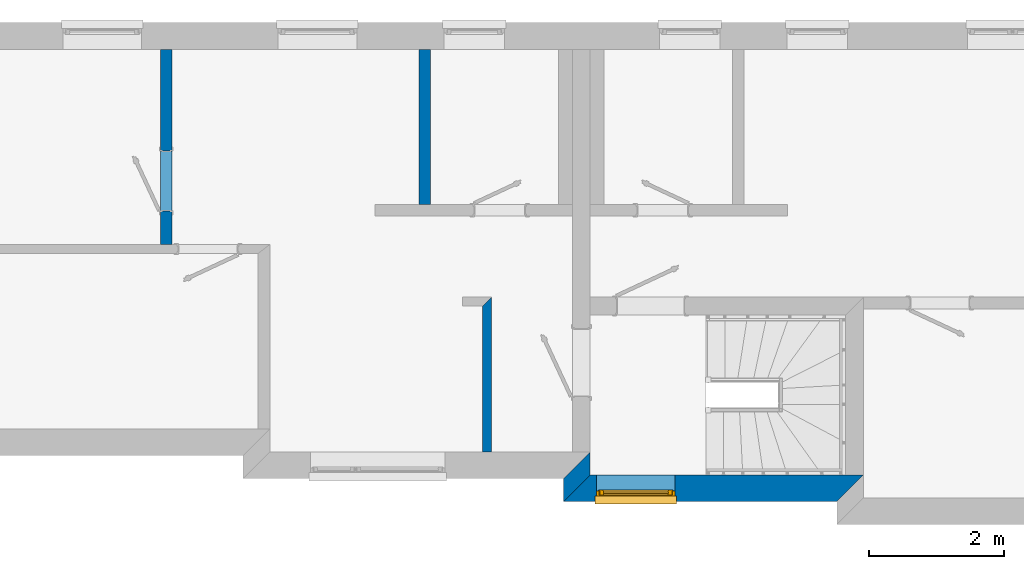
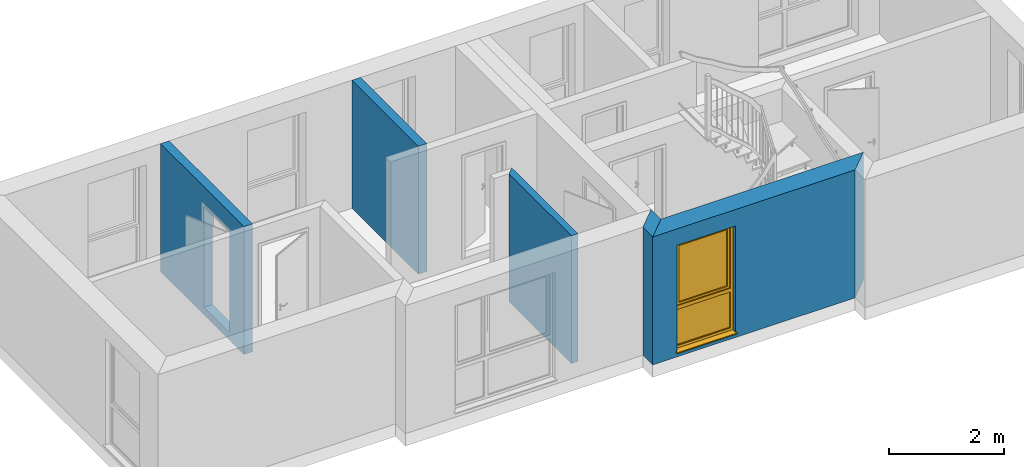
# One storey, part 4 of 16: 5 walls, 1 window, 2 openings.
"""IFC2X3 building model written with IfcOpenShell, lengths in millimetres."""

import ifcopenshell
import ifcopenshell.guid

model = None  # the IFC model being written
_history = None  # IfcOwnerHistory: only IFC2X3 demands one
_inside = {}  # id of a spatial element -> (the spatial element, [elements in it])
_under = {}  # id of a project, library or spatial element -> (it, [spatial elements below it])
_declared = {}  # id of a project -> (the project, [libraries it declares])
_typed = {}  # id of a type object -> (the type object, [elements of that type])
_made_of = {}  # id of a material, layer set ... -> (it, [elements and type objects made of it])


def new_model(schema):
    """Start an empty IFC model of exactly this schema.

    Asked for "IFC4X3", IfcOpenShell would pick the latest addendum, in which some entities
    have other attributes; the version numbers below select the first issue.
    IFC2X3 requires an IfcOwnerHistory on every rooted entity: one is made here for all.
    """
    global model, _history
    if schema == "IFC4X3":
        model = ifcopenshell.file(schema_version=(4, 3, 0, 0))
    else:
        model = ifcopenshell.file(schema=schema)
    _inside.clear()
    _under.clear()
    _declared.clear()
    _typed.clear()
    _made_of.clear()
    _history = None
    if model.schema == "IFC2X3":
        org = make("IfcOrganization", Name="unknown")
        user = make(
            "IfcPersonAndOrganization",
            ThePerson=make("IfcPerson", FamilyName="unknown"),
            TheOrganization=org,
        )
        app = make(
            "IfcApplication",
            ApplicationDeveloper=org,
            Version="unknown",
            ApplicationFullName="unknown",
            ApplicationIdentifier="unknown",
        )
        _history = make(
            "IfcOwnerHistory",
            OwningUser=user,
            OwningApplication=app,
            ChangeAction="ADDED",
            CreationDate=0,
        )
    return model


def make(cls, **values):
    """One entity of the class cls with the attributes given. An attribute that is None is left unset."""
    return model.create_entity(
        cls, **{name: value for name, value in values.items() if value is not None}
    )


def rooted(cls, **values):
    """An entity with a GlobalId (a new one), such as an element, a storey or a relation."""
    return make(cls, GlobalId=ifcopenshell.guid.new(), OwnerHistory=_history, **values)


def si_unit(unit_type, name, prefix=None):
    """IfcSIUnit, for example si_unit("LENGTHUNIT", "METRE", prefix="MILLI")."""
    return make("IfcSIUnit", UnitType=unit_type, Prefix=prefix, Name=name)


def assignment(units):
    """IfcUnitAssignment: the units of a project."""
    return None if units is None else make("IfcUnitAssignment", Units=units)


def point(xyz):
    """IfcCartesianPoint."""
    return None if xyz is None else make("IfcCartesianPoint", Coordinates=xyz)


def direction(xyz):
    """IfcDirection."""
    return None if xyz is None else make("IfcDirection", DirectionRatios=xyz)


def frame(location, z_axis=None, x_axis=None):
    """IfcAxis2Placement3D, a coordinate frame: its origin and axes. An axis left out is left unset."""
    return make(
        "IfcAxis2Placement3D",
        Location=point(location),
        Axis=direction(z_axis),
        RefDirection=direction(x_axis),
    )


def origin_with_axes():
    """The frame at (0, 0, 0) with the z axis (0, 0, 1) and the x axis (1, 0, 0) written out."""
    return frame((0.0, 0.0, 0.0), z_axis=(0.0, 0.0, 1.0), x_axis=(1.0, 0.0, 0.0))


def place(relative_to, where):
    """IfcLocalPlacement: puts the frame where relative to a parent placement (None: the world)."""
    return make(
        "IfcLocalPlacement", PlacementRelTo=relative_to, RelativePlacement=where
    )


def context(
    kind, dimensions, precision=None, world=None, true_north=None, identifier=None
):
    """IfcGeometricRepresentationContext, for example the 3D "Model" context."""
    return make(
        "IfcGeometricRepresentationContext",
        ContextIdentifier=identifier,
        ContextType=kind,
        CoordinateSpaceDimension=dimensions,
        Precision=precision,
        WorldCoordinateSystem=world,
        TrueNorth=true_north,
    )


def project(units=None, contexts=None):
    """IfcProject with its units and contexts."""
    return rooted(
        "IfcProject",
        Name="project",
        RepresentationContexts=contexts,
        UnitsInContext=assignment(units),
    )


def spatial(cls, under=None, at=None, **own):
    """A site, building, storey or space (cls), placed at a placement, below another one or the project."""
    s = rooted(cls, ObjectPlacement=at, **own)
    if under is not None:
        _under.setdefault(under.id(), (under, []))[1].append(s)
    return s


def faces_of(points, faces, orient=None, outer=None):
    """IfcFace entities. A face is a list of loops; a loop is a list of indices into points, from 0.

    orient and outer hold one flag for each loop. By default every Orientation is true, the
    first loop of a face is its IfcFaceOuterBound and the others are IfcFaceBound.
    """
    made = []
    for i, loops in enumerate(faces):
        bounds = []
        for j, loop in enumerate(loops):
            is_outer = j == 0 if outer is None else outer[i][j]
            bounds.append(
                make(
                    "IfcFaceOuterBound" if is_outer else "IfcFaceBound",
                    Bound=make("IfcPolyLoop", Polygon=[points[k] for k in loop]),
                    Orientation=True if orient is None else orient[i][j],
                )
            )
        made.append(make("IfcFace", Bounds=bounds))
    return made


def faceted_brep(points, faces, orient=None, outer=None, voids=None):
    """IfcFacetedBrep: a solid bounded by flat faces; with voids (closed shells), ...WithVoids."""
    shared = [point(p) for p in points]
    hull = make("IfcClosedShell", CfsFaces=faces_of(shared, faces, orient, outer))
    if voids is None:
        return make("IfcFacetedBrep", Outer=hull)
    return make(
        "IfcFacetedBrepWithVoids",
        Outer=hull,
        Voids=[
            make(cls, CfsFaces=faces_of(shared, fs, o, b)) for cls, fs, o, b in voids
        ],
    )


def shape(context_of_items, identifier, shape_type, items):
    """IfcShapeRepresentation: the items that make up one representation, for example the "Body"."""
    return make(
        "IfcShapeRepresentation",
        ContextOfItems=context_of_items,
        RepresentationIdentifier=identifier,
        RepresentationType=shape_type,
        Items=items,
    )


def material(Name=None, Category=None):
    """IfcMaterial."""
    return make("IfcMaterial", Name=Name, Category=Category)


def layer(
    of_material, thickness, ventilated=None, Name=None, Category=None, Priority=None
):
    """IfcMaterialLayer: one layer of a wall or slab, of a material (None: an air gap)."""
    return make(
        "IfcMaterialLayer",
        Material=of_material,
        LayerThickness=thickness,
        IsVentilated=ventilated,
        Name=Name,
        Category=Category,
        Priority=Priority,
    )


def layer_set(layers, Name=None):
    """IfcMaterialLayerSet."""
    return make("IfcMaterialLayerSet", MaterialLayers=layers, LayerSetName=Name)


def layer_usage(for_layer_set, set_direction, sense, offset, extent=None):
    """IfcMaterialLayerSetUsage: how a layer set lies in its element."""
    return make(
        "IfcMaterialLayerSetUsage",
        ForLayerSet=for_layer_set,
        LayerSetDirection=set_direction,
        DirectionSense=sense,
        OffsetFromReferenceLine=offset,
        ReferenceExtent=extent,
    )


def made_of(thing, what):
    """Note that an element or type object is made of a material, layer set ...; save() writes the relation."""
    if what is not None:
        _made_of.setdefault(what.id(), (what, []))[1].append(thing)
    return thing


def type_object(cls, material=None, **own):
    """A type object (cls), such as IfcWallType, which elements share."""
    return made_of(rooted(cls, **own), material)


def element(
    cls,
    number,
    at=None,
    inside=None,
    cuts=None,
    type_object=None,
    material=None,
    context=None,
    identifier="Body",
    shape_type=None,
    held_by="IfcProductDefinitionShape",
    body=None,
    shapes=None,
    **own,
):
    """One element of the class cls, such as IfcWall. Its Tag is "e" and its number.

    at: its placement. inside: the storey or other place that contains it. cuts: it is an
    opening in that element (IfcRelVoidsElement). A single representation is given by context,
    identifier, shape_type and body (its items); several are given by shapes. held_by: the class
    of the entity that holds the representations. save() writes the other relations.
    """
    e = rooted(cls, Tag="e%d" % number, ObjectPlacement=at, **own)
    if body is not None:
        shapes = [shape(context, identifier, shape_type, body)]
    if shapes is not None:
        e.Representation = make(held_by, Representations=shapes)
    if inside is not None:
        _inside.setdefault(inside.id(), (inside, []))[1].append(e)
    if cuts is not None:
        rooted(
            "IfcRelVoidsElement", RelatingBuildingElement=cuts, RelatedOpeningElement=e
        )
    if type_object is not None:
        _typed.setdefault(type_object.id(), (type_object, []))[1].append(e)
    return made_of(e, material)


def fill(opening, filler):
    """IfcRelFillsElement: the door or window that sits in an opening."""
    return rooted(
        "IfcRelFillsElement",
        RelatingOpeningElement=opening,
        RelatedBuildingElement=filler,
    )


def aggregate(whole, parts):
    """IfcRelAggregates: a whole, such as a stair, and the parts it consists of."""
    return rooted("IfcRelAggregates", RelatingObject=whole, RelatedObjects=parts)


def save(model, path):
    """Write the relations noted so far, then the file.

    IfcRelAggregates (storeys below a building ...), IfcRelContainedInSpatialStructure (elements
    in a storey), IfcRelDefinesByType, IfcRelAssociatesMaterial and IfcRelDeclares: one each for
    every whole, place, type object, material and project.
    """
    for whole, parts in _under.values():
        aggregate(whole, parts)
    for where, things in _inside.values():
        rooted(
            "IfcRelContainedInSpatialStructure",
            RelatedElements=things,
            RelatingStructure=where,
        )
    for kind, things in _typed.values():
        rooted("IfcRelDefinesByType", RelatedObjects=things, RelatingType=kind)
    for what, things in _made_of.values():
        rooted("IfcRelAssociatesMaterial", RelatedObjects=things, RelatingMaterial=what)
    for by, libraries in _declared.values():
        rooted("IfcRelDeclares", RelatingContext=by, RelatedDefinitions=libraries)
    model.write(path)


model = new_model("IFC2X3")

# Units and contexts
model_context = context("Model", 3, world=origin_with_axes())
ifc_project = project(units=[si_unit("LENGTHUNIT", "METRE", prefix="MILLI")], contexts=[model_context])

# Site, building, storey
site_placement = place(None, origin_with_axes())
site = spatial("IfcSite", under=ifc_project, at=site_placement, Name="Site", CompositionType="ELEMENT")
building_placement = place(site_placement, origin_with_axes())
building = spatial("IfcBuilding", under=site, at=building_placement, Name="?", CompositionType="ELEMENT")
storey_placement = place(building_placement, frame((0.0, 0.0, 2969.0), z_axis=(0.0, 0.0, 1.0), x_axis=(1.0, 0.0, 0.0)))
storey = spatial("IfcBuildingStorey", under=building, at=storey_placement, Name="Obergeschoß 1", CompositionType="ELEMENT", Elevation=2969.0)

# Wall, opening, window
ifc_material_1 = material(Name="Material_AW")
ifc_layer_1 = layer(ifc_material_1, 395.0, ventilated=False)
ifc_layer_set_1 = layer_set([ifc_layer_1], Name="MaterialLayerSet_AW")
ifc_layer_usage_1 = layer_usage(ifc_layer_set_1, "AXIS2", "NEGATIVE", 197.5)
wall_1_placement = place(storey_placement, frame((13747.5, -6900.5, 0.0), z_axis=(0.0, 0.0, 1.0), x_axis=(-1.0, 0.0, 0.0)))
wall_1 = element("IfcWall", 1, at=wall_1_placement, inside=storey, material=ifc_layer_usage_1, Name="AW-15", context=model_context, shape_type="Brep", body=[
    faceted_brep([(3852.50007906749, -197.5, 0.0), (3852.50007906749, -197.5, 2707.0), (-197.5, -197.5, 2707.0), (-197.5, -197.5, 0.0), (4247.50007906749, 197.5, 0.0), (4247.50007906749, 197.5, 2707.0), (3852.50007906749, -197.5, 2707.0), (3852.50007906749, -197.5, 0.0), (197.5, 197.5, 0.0), (197.5, 197.5, 2707.0), (4247.50007906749, 197.5, 2707.0), (4247.50007906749, 197.5, 0.0), (-197.5, -197.5, 0.0), (-197.5, -197.5, 2707.0), (197.5, 197.5, 2707.0), (197.5, 197.5, 0.0), (-197.5, -197.5, 0.0), (197.5, 197.5, 0.0), (4247.50007906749, 197.5, 0.0), (3852.50007906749, -197.5, 0.0), (197.5, 197.5, 2707.0), (-197.5, -197.5, 2707.0), (3852.50007906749, -197.5, 2707.0), (4247.50007906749, 197.5, 2707.0)], [[[0, 1, 2, 3]], [[4, 5, 6, 7]], [[8, 9, 10, 11]], [[12, 13, 14, 15]], [[16, 17, 18, 19]], [[20, 21, 22, 23]]]),
])
opening_1_placement = place(wall_1_placement, frame((2592.5, 0.0, 116.0), z_axis=(0.0, 0.0, 1.0), x_axis=(1.0, 0.0, 0.0)))
opening_1 = element("IfcOpeningElement", 2, at=opening_1_placement, cuts=wall_1, Name="AW-15|FE17", context=model_context, shape_type="Brep", body=[
    faceted_brep([(0.0, 207.5, 0.0), (0.0, 207.5, 2244.0), (1170.0, 207.5, 2244.0), (1170.0, 207.5, 0.0), (0.0, -207.5, 0.0), (0.0, -207.5, 2244.0), (0.0, 207.5, 2244.0), (0.0, 207.5, 0.0), (1170.0, -207.5, 0.0), (0.0, -207.5, 0.0), (0.0, 207.5, 0.0), (1170.0, 207.5, 0.0), (1170.0, -207.5, 2244.0), (1170.0, -207.5, 0.0), (1170.0, 207.5, 0.0), (1170.0, 207.5, 2244.0), (0.0, -207.5, 2244.0), (1170.0, -207.5, 2244.0), (1170.0, 207.5, 2244.0), (0.0, 207.5, 2244.0), (0.0, -207.5, 0.0), (1170.0, -207.5, 0.0), (1170.0, -207.5, 2244.0), (0.0, -207.5, 2244.0)], [[[0, 1, 2, 3]], [[4, 5, 6, 7]], [[8, 9, 10, 11]], [[12, 13, 14, 15]], [[16, 17, 18, 19]], [[20, 21, 22, 23]]]),
])
window_style = type_object("IfcWindowStyle", Name="FE17", ConstructionType="NOTDEFINED", OperationType="DOUBLE_PANEL_HORIZONTAL", ParameterTakesPrecedence=True, Sizeable=False)
window_placement = place(opening_1_placement, frame((1170.0, 77.5, 0.0), z_axis=(0.0, 0.0, 1.0), x_axis=(-1.0, 0.0, 0.0)))
window = element("IfcWindow", 3, at=window_placement, inside=storey, type_object=window_style, Name="FE17", OverallHeight=2244.0, OverallWidth=1170.0, context=model_context, shape_type="Brep", body=[
    faceted_brep([(0.0, -36.0, 0.0), (1170.0, -36.0, 0.0), (1155.0, -36.0, 15.0), (15.0, -36.0, 15.0), (15.0, 36.0, 15.0), (1155.0, 36.0, 15.0), (1170.0, 36.0, 0.0), (0.0, 36.0, 0.0), (0.0, 36.0, 0.0), (1170.0, 36.0, 0.0), (1170.0, -36.0, 0.0), (0.0, -36.0, 0.0), (1170.0, -36.0, 0.0), (1170.0, -36.0, 2244.0), (1155.0, -36.0, 2229.0), (1155.0, -36.0, 15.0), (1155.0, 36.0, 14.999755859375), (1155.0, 36.0, 2229.0), (1170.0, 36.0, 2244.0), (1170.0, 36.0, -0.000244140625), (1170.0, 36.0, 0.0), (1170.0, 36.0, 2244.0), (1170.0, -36.0, 2244.0), (1170.0, -36.0, 0.0), (1170.0, -36.0, 2244.0), (0.0, -36.0, 2244.0), (15.0, -36.0, 2229.0), (1155.0, -36.0, 2229.0), (1155.0, 36.0, 2229.0), (15.0, 36.0, 2229.0), (0.0, 36.0, 2244.0), (1170.0, 36.0, 2244.0), (1170.0, 36.0, 2244.0), (0.0, 36.0, 2244.0), (0.0, -36.0, 2244.0), (1170.0, -36.0, 2244.0), (0.0, -36.0, 2244.0), (0.0, -36.0, 0.0), (15.0, -36.0, 15.0), (15.0, -36.0, 2229.0), (15.0, 36.0, 2229.0), (15.0, 36.0, 15.0), (0.0, 36.0, 0.0), (0.0, 36.0, 2244.0), (0.0, 36.0, 2244.0), (0.0, 36.0, 0.0), (0.0, -36.0, 0.0), (0.0, -36.0, 2244.0), (1155.0, 36.0, 855.0), (1117.0, 36.0, 817.0), (53.0, 36.0, 817.0), (15.0, 36.0, 855.0), (43.0, 36.0, 883.0), (1127.0, 36.0, 883.0), (1127.0, 36.0, 883.0), (43.0, 36.0, 883.0), (43.0, -21.0, 883.0), (1127.0, -21.0, 883.0), (1127.0, -21.0, 883.0), (43.0, -21.0, 883.0), (60.0, -21.0, 900.0), (1110.0, -21.0, 900.0), (1109.9990234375, -21.0, 900.0), (59.9990234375, -21.0, 900.0), (59.9990234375, -25.0, 900.0), (1109.9990234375, -25.0, 900.0), (1109.9990234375, -25.0, 900.0), (59.999023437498, -25.0, 900.0), (52.999023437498, -36.0014647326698, 892.999023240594), (1116.9990234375, -36.0014647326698, 892.999023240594), (1117.0, -36.0, 893.0), (53.0, -36.0, 893.0), (15.0, -36.0, 855.0), (53.0, -36.0, 817.0), (1117.0, -36.0, 817.0), (1155.0, -36.0, 855.0), (53.0, 36.0, 817.0), (1117.0, 36.0, 817.0), (1110.0, 24.9985354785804, 809.999267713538), (60.0, 24.9985354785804, 809.999267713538), (59.9990234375, 25.0, 810.0), (1109.9990234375, 25.0, 810.0), (1109.9990234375, 12.0, 810.0), (59.9990234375, 12.0, 810.0), (59.9990234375, -12.0, 810.0), (1109.9990234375, -12.0, 810.0), (1109.9990234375, -25.0, 810.0), (59.9990234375, -25.0, 810.0), (59.9990234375, 12.0, 810.0), (1109.9990234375, 12.0, 810.0), (1126.9990234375, 12.0, 827.0), (42.9990234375, 12.0, 827.0), (43.0, 12.0, 827.0), (1127.0, 12.0, 827.0), (1127.0, -12.0, 827.0), (43.0, -12.0, 827.0), (43.0, -12.0, 827.0), (1127.0, -12.0, 827.0), (1110.0, -12.0, 810.0), (60.0, -12.0, 810.0), (59.9990234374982, -25.0, 810.0), (1109.9990234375, -25.0, 810.0), (1116.9990234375, -36.0014647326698, 817.000976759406), (52.9990234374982, -36.0014647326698, 817.000976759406), (1155.0, 36.0, 2229.0), (1155.0, 36.0, 855.0), (1127.0, 36.0, 883.0), (1127.0, 36.0, 2201.0), (1127.0, 36.0, 2201.0), (1127.0, 36.0, 883.0), (1127.0, -21.0, 883.0), (1127.0, -21.0, 2201.0), (1127.0, -21.0, 2201.0), (1127.0, -21.0, 883.0), (1110.0, -21.0, 900.0), (1110.0, -21.0, 2184.0), (1110.0, -21.0, 2184.0), (1110.0, -21.0, 900.0), (1110.0, -25.0, 900.0), (1110.0, -25.0, 2184.0), (1110.0, -25.0, 2184.0), (1110.0, -25.0, 900.0), (1117.00097675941, -36.0014647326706, 893.0), (1117.00097675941, -36.0014647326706, 2191.0), (1117.0, -36.0, 2191.0), (1117.0, -36.0, 893.0), (1155.0, -36.0, 855.0), (1155.0, -36.0, 2229.0), (15.0, 36.0, 2229.0), (1155.0, 36.0, 2229.0), (1127.0, 36.0, 2201.0), (43.0, 36.0, 2201.0), (43.0, 36.0, 2201.0), (1127.0, 36.0, 2201.0), (1127.0, -21.0, 2201.0), (43.0, -21.0, 2201.0), (43.0, -21.0, 2201.0), (1127.0, -21.0, 2201.0), (1110.0, -21.0, 2184.0), (60.0, -21.0, 2184.0), (59.9990234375, -21.0, 2184.0), (1109.9990234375, -21.0, 2184.0), (1109.9990234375, -25.0, 2184.0), (59.9990234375, -25.0, 2184.0), (59.9990234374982, -24.9999999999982, 2184.0), (1109.9990234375, -24.9999999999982, 2184.0), (1116.9990234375, -36.0014647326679, 2191.00097675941), (52.9990234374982, -36.0014647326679, 2191.00097675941), (53.0, -36.0, 2191.0), (1117.0, -36.0, 2191.0), (1155.0, -36.0, 2229.0), (15.0, -36.0, 2229.0), (15.0, 36.0, 855.0), (15.0, 36.0, 2229.0), (43.0, 36.0, 2201.0), (43.0, 36.0, 883.0), (43.0, 36.0, 883.00048828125), (43.0, 36.0, 2201.00048828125), (43.0, -21.0, 2201.00048828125), (43.0, -21.0, 883.00048828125), (43.0, -21.0, 883.00048828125), (43.0, -21.0, 2201.00048828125), (60.0, -21.0, 2184.00048828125), (60.0, -21.0, 900.00048828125), (60.0, -21.0, 900.0), (60.0, -21.0, 2184.0), (60.0, -25.0, 2184.0), (60.0, -25.0, 900.0), (60.0, -25.0, 900.0), (60.0, -25.0, 2184.0), (52.9990232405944, -36.0014647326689, 2191.0), (52.9990232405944, -36.0014647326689, 893.0), (53.0, -36.0, 893.0), (53.0, -36.0, 2191.0), (15.0, -36.0, 2229.0), (15.0, -36.0, 855.0), (1155.0, 36.0, 15.0), (15.0, 36.0, 15.0), (53.0, 36.0, 53.0), (1117.0, 36.0, 53.0), (1117.0, 36.0, 53.0), (53.0, 36.0, 53.0), (60.0, 24.9985354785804, 60.0007322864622), (1110.0, 24.9985354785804, 60.0007322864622), (1109.9990234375, 25.0, 60.0), (59.9990234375, 25.0, 60.0), (59.9990234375, 12.0, 60.0), (1109.9990234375, 12.0, 60.0), (1109.9990234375, -12.0, 60.0), (59.9990234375, -12.0, 60.0), (59.9990234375, -25.0, 60.0), (1109.9990234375, -25.0, 60.0), (1109.9990234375, 12.0, 60.0), (59.9990234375, 12.0, 60.0), (42.9990234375, 12.0, 43.0), (1126.9990234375, 12.0, 43.0), (1127.0, 12.0, 43.0), (43.0, 12.0, 43.0), (43.0, -12.0, 43.0), (1127.0, -12.0, 43.0), (1127.0, -12.0, 43.0), (43.0, -12.0, 43.0), (60.0, -12.0, 60.0), (1110.0, -12.0, 60.0), (1109.9990234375, -25.0, 60.0), (59.999023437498, -25.0, 60.0), (52.999023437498, -36.0014647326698, 52.9990232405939), (1116.9990234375, -36.0014647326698, 52.9990232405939), (1117.0, -36.0, 53.0), (53.0, -36.0, 53.0), (15.0, -36.0, 15.0), (1155.0, -36.0, 15.0), (1155.0, 36.0, 855.0), (1155.0, 36.0, 15.0), (1117.0, 36.0, 53.0), (1117.0, 36.0, 817.0), (1117.0, 36.0, 817.0), (1117.0, 36.0, 53.0), (1109.9999999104, 24.9980470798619, 60.0), (1109.9999999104, 24.9980470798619, 810.0), (1110.0, 25.0, 810.0), (1110.0, 25.0, 60.0), (1110.0, 12.0, 60.0), (1110.0, 12.0, 810.0), (1110.0, -12.0, 810.0), (1110.0, -12.0, 59.9999999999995), (1110.00097656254, -25.000000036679, 59.9999999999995), (1110.00097656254, -25.000000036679, 810.0), (1110.0, 12.0, 810.0), (1110.0, 12.0, 60.0), (1127.0, 12.0, 43.0), (1127.0, 12.0, 827.0), (1127.0, 12.0, 826.99951171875), (1127.0, 12.0, 42.99951171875), (1127.0, -12.0, 42.99951171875), (1127.0, -12.0, 826.99951171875), (1127.0, -12.0, 826.99951171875), (1127.0, -12.0, 42.99951171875), (1110.0, -12.0, 59.99951171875), (1110.0, -12.0, 809.99951171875), (1110.0, -25.0, 810.0), (1110.0, -25.0, 60.0000000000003), (1117.00097675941, -36.0014647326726, 53.0000000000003), (1117.00097675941, -36.0014647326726, 817.0), (1117.0, -36.0, 817.0), (1117.0, -36.0, 53.0), (1155.0, -36.0, 15.0), (1155.0, -36.0, 855.0), (15.0, 36.0, 15.0), (15.0, 36.0, 855.0), (53.0, 36.0, 817.0), (53.0, 36.0, 53.0), (53.0, 36.0, 53.0), (53.0, 36.0, 817.0), (60.0009767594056, 24.9985352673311, 810.0), (60.0009767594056, 24.9985352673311, 60.0), (60.0, 25.0, 60.0), (60.0, 25.0, 810.0), (60.0, 12.0, 810.0), (60.0, 12.0, 60.0), (59.9990234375, -12.0, 60.0), (59.9990234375, -12.0, 810.0), (59.9990234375, -25.0, 810.0), (59.9990234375, -25.0, 60.0), (60.0, 12.0, 60.0), (60.0, 12.0, 810.0), (43.0, 12.0, 827.0), (43.0, 12.0, 43.0), (43.0, 12.0, 43.00048828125), (43.0, 12.0, 827.00048828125), (43.0, -12.0, 827.00048828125), (43.0, -12.0, 43.00048828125), (43.0, -12.0, 43.00048828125), (43.0, -12.0, 827.00048828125), (60.0, -12.0, 810.00048828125), (60.0, -12.0, 60.00048828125), (60.0, -25.0, 60.0), (60.0, -25.0, 810.0), (52.9990232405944, -36.0014647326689, 817.0), (52.9990232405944, -36.0014647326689, 53.0), (53.0, -36.0, 53.0), (53.0, -36.0, 817.0), (15.0, -36.0, 855.0), (15.0, -36.0, 15.0), (1137.0, 52.0, 873.0), (33.0, 52.0, 873.0), (96.0, 52.0, 936.0), (1074.0, 52.0, 936.0), (1074.0, 52.0, 936.0), (96.0, 52.0, 936.0), (110.0, 19.9985360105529, 950.00048798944), (1060.0, 19.9985360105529, 950.00048798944), (1060.0, 20.0, 950.0), (110.0, 20.0, 950.0), (103.0, 20.0, 943.0), (1067.0, 20.0, 943.0), (1067.0, 20.0, 943.0), (103.0, 20.0, 943.0), (103.0, -4.0, 943.0), (1067.0, -4.0, 943.0), (1067.0, -4.0, 943.0), (103.0, -4.0, 943.0), (110.0, -4.0, 950.0), (1060.0, -4.0, 950.0), (1060.0, -4.0, 950.0), (110.0, -4.0, 950.0), (102.0, -21.0014648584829, 941.999267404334), (1068.0, -21.0014648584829, 941.999267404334), (1067.9990234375, -21.0, 942.0), (101.9990234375, -21.0, 942.0), (50.9990234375, -21.0, 891.0), (1118.9990234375, -21.0, 891.0), (1118.9990234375, -21.0, 891.0), (50.9990234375, -21.0, 891.0), (50.9990234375, 36.0, 891.0), (1118.9990234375, 36.0, 891.0), (1118.9990234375, 36.0, 891.0), (50.9990234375, 36.0, 891.0), (32.9990234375, 36.0, 873.0), (1136.9990234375, 36.0, 873.0), (1137.0, 36.0, 873.0), (33.0, 36.0, 873.0), (33.0, 52.0, 873.0), (1137.0, 52.0, 873.0), (1137.0, 52.0, 2211.00048828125), (1137.0, 52.0, 873.00048828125), (1074.0, 52.0, 936.00048828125), (1074.0, 52.0, 2148.00048828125), (1074.0, 51.9999999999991, 2148.0), (1074.0, 51.9999999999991, 936.0), (1059.99902341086, 19.99853575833, 950.0), (1059.99902341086, 19.99853575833, 2134.0), (1060.0, 20.0, 2134.0), (1060.0, 20.0, 950.0), (1067.0, 20.0, 943.0), (1067.0, 20.0, 2141.0), (1067.0, 20.0, 2141.0), (1067.0, 20.0, 943.0), (1067.0, -4.0, 943.0), (1067.0, -4.0, 2141.0), (1067.0, -4.0, 2141.0), (1067.0, -4.0, 943.0), (1060.0, -4.0, 950.0), (1060.0, -4.0, 2134.0), (1060.0, -4.0, 2134.0), (1060.0, -4.0, 950.0), (1068.00097677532, -21.0014648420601, 942.0), (1068.00097677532, -21.0014648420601, 2142.0), (1068.0, -21.0, 2142.0), (1068.0, -21.0, 942.0), (1119.0, -21.0, 891.0), (1119.0, -21.0, 2193.0), (1119.0, -21.0, 2193.0), (1119.0, -21.0, 891.0), (1119.0, 36.0, 891.0), (1119.0, 36.0, 2193.0), (1119.0, 36.0, 2193.0), (1119.0, 36.0, 891.0), (1137.0, 36.0, 873.0), (1137.0, 36.0, 2211.0), (1137.0, 36.0, 2211.00048828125), (1137.0, 36.0, 873.00048828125), (1137.0, 52.0, 873.00048828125), (1137.0, 52.0, 2211.00048828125), (33.0, 52.0, 2211.0), (1137.0, 52.0, 2211.0), (1074.0, 52.0, 2148.0), (96.0, 52.0, 2148.0), (96.0, 52.0000000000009, 2148.0), (1074.0, 52.0000000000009, 2148.0), (1060.0, 19.9985360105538, 2133.99951201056), (110.0, 19.9985360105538, 2133.99951201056), (110.0, 20.0, 2134.0), (1060.0, 20.0, 2134.0), (1067.0, 20.0, 2141.0), (103.0, 20.0, 2141.0), (102.9990234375, 20.0, 2141.0), (1066.9990234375, 20.0, 2141.0), (1066.9990234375, -4.0, 2141.0), (102.9990234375, -4.0, 2141.0), (102.9990234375, -4.0, 2141.0), (1066.9990234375, -4.0, 2141.0), (1059.9990234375, -4.0, 2134.0), (109.9990234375, -4.0, 2134.0), (110.0, -4.0, 2134.0), (1060.0, -4.0, 2134.0), (1068.0, -21.0014648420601, 2142.00097677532), (102.0, -21.0014648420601, 2142.00097677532), (101.9990234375, -21.0, 2142.0), (1067.9990234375, -21.0, 2142.0), (1118.9990234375, -21.0, 2193.0), (50.9990234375, -21.0, 2193.0), (50.9990234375, -21.0, 2193.0), (1118.9990234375, -21.0, 2193.0), (1118.9990234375, 36.0, 2193.0), (50.9990234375, 36.0, 2193.0), (50.9990234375, 36.0, 2193.0), (1118.9990234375, 36.0, 2193.0), (1136.9990234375, 36.0, 2211.0), (32.9990234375, 36.0, 2211.0), (33.0, 36.0, 2211.0), (1137.0, 36.0, 2211.0), (1137.0, 52.0, 2211.0), (33.0, 52.0, 2211.0), (33.0, 52.0, 873.00048828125), (33.0, 52.0, 2211.00048828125), (96.0, 52.0, 2148.00048828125), (96.0, 52.0, 936.00048828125), (96.0, 52.0, 935.999755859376), (96.0, 52.0, 2148.0), (110.000976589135, 19.99853575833, 2134.0), (110.000976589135, 19.99853575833, 949.999755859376), (110.0, 20.0, 950.00048828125), (110.0, 20.0, 2134.00048828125), (103.0, 20.0, 2141.00048828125), (103.0, 20.0, 943.00048828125), (103.0, 20.0, 943.00048828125), (103.0, 20.0, 2141.00048828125), (103.0, -4.0, 2141.00048828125), (103.0, -4.0, 943.00048828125), (103.0, -4.0, 943.00048828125), (103.0, -4.0, 2141.00048828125), (110.0, -4.0, 2134.00048828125), (110.0, -4.0, 950.00048828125), (110.0, -4.0, 950.00048828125), (110.0, -4.0, 2134.00048828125), (101.999023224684, -21.0014648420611, 2142.00048828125), (101.999023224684, -21.0014648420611, 942.00048828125), (102.0, -21.0, 942.0), (102.0, -21.0, 2142.0), (51.0, -21.0, 2193.0), (51.0, -21.0, 891.0), (51.0, -21.0, 891.00048828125), (51.0, -21.0, 2193.00048828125), (51.0, 36.0, 2193.00048828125), (51.0, 36.0, 891.00048828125), (51.0, 36.0, 891.00048828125), (51.0, 36.0, 2193.00048828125), (33.0, 36.0, 2211.00048828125), (33.0, 36.0, 873.00048828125), (33.0, 36.0, 873.00048828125), (33.0, 36.0, 2211.00048828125), (33.0, 52.0, 2211.00048828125), (33.0, 52.0, 873.00048828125), (110.0, 20.0, 950.0), (110.0, 20.0, 2134.0), (1060.0, 20.0, 2134.0), (1060.0, 20.0, 950.0), (110.0, -4.0, 950.0), (1060.0, -4.0, 950.0), (1060.0, -4.0, 2134.0), (110.0, -4.0, 2134.0), (60.0, 12.0, 60.0), (60.0, 12.0, 810.0), (1110.0, 12.0, 810.0), (1110.0, 12.0, 60.0), (60.0, -12.0, 60.0), (1110.0, -12.0, 60.0), (1110.0, -12.0, 810.0), (60.0, -12.0, 810.0), (-20.0, -36.0, 0.5), (-20.0, -160.0, 0.5), (1190.0, -160.0, 0.5), (1190.0, -36.0, 0.5), (-20.0, -36.0, -19.5), (-20.0, -36.0, 0.5), (1190.0, -36.0, 0.5), (1190.0, -36.0, -19.5), (-20.0, -160.0, -19.5), (-20.0, -36.0, -19.5), (1190.0, -36.0, -19.5), (1190.0, -160.0, -19.5), (-20.0, -160.0, 0.5), (-20.0, -160.0, -19.5), (1190.0, -160.0, -19.5), (1190.0, -160.0, 0.5), (-20.0, -160.0, -19.5), (-20.0, -160.0, 0.5), (-20.0, -36.0, 0.5), (-20.0, -36.0, -19.5), (1190.0, -160.0, 0.5), (1190.0, -160.0, -19.5), (1190.0, -36.0, -19.5), (1190.0, -36.0, 0.5)], [[[0, 1, 2, 3]], [[4, 5, 6, 7]], [[8, 9, 10, 11]], [[12, 13, 14, 15]], [[16, 17, 18, 19]], [[20, 21, 22, 23]], [[24, 25, 26, 27]], [[28, 29, 30, 31]], [[32, 33, 34, 35]], [[36, 37, 38, 39]], [[40, 41, 42, 43]], [[44, 45, 46, 47]], [[48, 49, 50, 51, 52, 53]], [[54, 55, 56, 57]], [[58, 59, 60, 61]], [[62, 63, 64, 65]], [[66, 67, 68, 69]], [[70, 71, 72, 73, 74, 75]], [[76, 77, 78, 79]], [[80, 81, 82, 83]], [[84, 85, 86, 87]], [[88, 89, 90, 91]], [[92, 93, 94, 95]], [[96, 97, 98, 99]], [[100, 101, 102, 103]], [[104, 105, 106, 107]], [[108, 109, 110, 111]], [[112, 113, 114, 115]], [[116, 117, 118, 119]], [[120, 121, 122, 123]], [[124, 125, 126, 127]], [[128, 129, 130, 131]], [[132, 133, 134, 135]], [[136, 137, 138, 139]], [[140, 141, 142, 143]], [[144, 145, 146, 147]], [[148, 149, 150, 151]], [[152, 153, 154, 155]], [[156, 157, 158, 159]], [[160, 161, 162, 163]], [[164, 165, 166, 167]], [[168, 169, 170, 171]], [[172, 173, 174, 175]], [[176, 177, 178, 179]], [[180, 181, 182, 183]], [[184, 185, 186, 187]], [[188, 189, 190, 191]], [[192, 193, 194, 195]], [[196, 197, 198, 199]], [[200, 201, 202, 203]], [[204, 205, 206, 207]], [[208, 209, 210, 211]], [[212, 213, 214, 215]], [[216, 217, 218, 219]], [[220, 221, 222, 223]], [[224, 225, 226, 227]], [[228, 229, 230, 231]], [[232, 233, 234, 235]], [[236, 237, 238, 239]], [[240, 241, 242, 243]], [[244, 245, 246, 247]], [[248, 249, 250, 251]], [[252, 253, 254, 255]], [[256, 257, 258, 259]], [[260, 261, 262, 263]], [[264, 265, 266, 267]], [[268, 269, 270, 271]], [[272, 273, 274, 275]], [[276, 277, 278, 279]], [[280, 281, 282, 283]], [[284, 285, 286, 287]], [[288, 289, 290, 291]], [[292, 293, 294, 295]], [[296, 297, 298, 299]], [[300, 301, 302, 303]], [[304, 305, 306, 307]], [[308, 309, 310, 311]], [[312, 313, 314, 315]], [[316, 317, 318, 319]], [[320, 321, 322, 323]], [[324, 325, 326, 327]], [[328, 329, 330, 331]], [[332, 333, 334, 335]], [[336, 337, 338, 339]], [[340, 341, 342, 343]], [[344, 345, 346, 347]], [[348, 349, 350, 351]], [[352, 353, 354, 355]], [[356, 357, 358, 359]], [[360, 361, 362, 363]], [[364, 365, 366, 367]], [[368, 369, 370, 371]], [[372, 373, 374, 375]], [[376, 377, 378, 379]], [[380, 381, 382, 383]], [[384, 385, 386, 387]], [[388, 389, 390, 391]], [[392, 393, 394, 395]], [[396, 397, 398, 399]], [[400, 401, 402, 403]], [[404, 405, 406, 407]], [[408, 409, 410, 411]], [[412, 413, 414, 415]], [[416, 417, 418, 419]], [[420, 421, 422, 423]], [[424, 425, 426, 427]], [[428, 429, 430, 431]], [[432, 433, 434, 435]], [[436, 437, 438, 439]], [[440, 441, 442, 443]], [[444, 445, 446, 447]], [[448, 449, 450, 451]], [[452, 453, 454, 455]], [[456, 457, 458, 459]], [[460, 461, 462, 463]], [[464, 465, 466, 467]], [[468, 469, 470, 471]], [[472, 473, 474, 475]], [[476, 477, 478, 479]], [[480, 481, 482, 483]]]),
])
fill(opening_1, window)

# Walls
wall_2_placement = place(storey_placement, frame((9697.5, -6900.5, 0.0), z_axis=(0.0, 0.0, 1.0), x_axis=(0.0, 1.0, 0.0)))
element("IfcWall", 4, at=wall_2_placement, inside=storey, material=ifc_layer_usage_1, Name="AW-16", context=model_context, shape_type="Brep", body=[
    faceted_brep([(539.500007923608, -197.5, 0.0), (539.500007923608, -197.5, 2707.0), (197.5, -197.5, 2707.0), (197.5, -197.5, 0.0), (144.500007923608, 197.5, 0.0), (144.500007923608, 197.5, 2707.0), (539.500007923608, -197.5, 2707.0), (539.500007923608, -197.5, 0.0), (-197.5, 197.5, 0.0), (-197.5, 197.5, 2707.0), (144.500007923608, 197.5, 2707.0), (144.500007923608, 197.5, 0.0), (197.5, -197.5, 0.0), (197.5, -197.5, 2707.0), (-197.5, 197.5, 2707.0), (-197.5, 197.5, 0.0), (197.5, -197.5, 0.0), (-197.5, 197.5, 0.0), (144.500007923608, 197.5, 0.0), (539.500007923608, -197.5, 0.0), (-197.5, 197.5, 2707.0), (197.5, -197.5, 2707.0), (539.500007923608, -197.5, 2707.0), (144.500007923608, 197.5, 2707.0)], [[[0, 1, 2, 3]], [[4, 5, 6, 7]], [[8, 9, 10, 11]], [[12, 13, 14, 15]], [[16, 17, 18, 19]], [[20, 21, 22, 23]]]),
])
ifc_material_2 = material(Name="Material_IW")
ifc_layer_2 = layer(ifc_material_2, 172.0, ventilated=False)
ifc_layer_set_2 = layer_set([ifc_layer_2], Name="MaterialLayerSet_IW")
ifc_layer_usage_2 = layer_usage(ifc_layer_set_2, "AXIS2", "NEGATIVE", 86.0)
wall_3_placement = place(storey_placement, frame((7439.0, -395.0, 0.0), z_axis=(0.0, 0.0, 1.0), x_axis=(0.0, -1.0, 0.0)))
element("IfcWall", 5, at=wall_3_placement, inside=storey, material=ifc_layer_usage_2, Name="IW-31", context=model_context, shape_type="Brep", body=[
    faceted_brep([(2302.0, -86.0, 0.0), (2302.0, -86.0, 2707.0), (0.0, -86.0, 2707.0), (0.0, -86.0, 0.0), (2302.0, 86.0, 0.0), (2302.0, 86.0, 2707.0), (2302.0, -86.0, 2707.0), (2302.0, -86.0, 0.0), (0.0, 86.0, 0.0), (0.0, 86.0, 2707.0), (2302.0, 86.0, 2707.0), (2302.0, 86.0, 0.0), (0.0, -86.0, 0.0), (0.0, -86.0, 2707.0), (0.0, 86.0, 2707.0), (0.0, 86.0, 0.0), (0.0, -86.0, 0.0), (0.0, 86.0, 0.0), (2302.0, 86.0, 0.0), (2302.0, -86.0, 0.0), (0.0, -86.0, 2707.0), (2302.0, -86.0, 2707.0), (2302.0, 86.0, 2707.0), (0.0, 86.0, 2707.0)], [[[0, 1, 2, 3]], [[4, 5, 6, 7]], [[8, 9, 10, 11]], [[12, 13, 14, 15]], [[16, 17, 18, 19]], [[20, 21, 22, 23]]]),
])

# Wall, opening
wall_4_placement = place(storey_placement, frame((3611.0, -395.0, 0.0), z_axis=(0.0, 0.0, 1.0), x_axis=(0.0, -1.0, 0.0)))
wall_4 = element("IfcWall", 6, at=wall_4_placement, inside=storey, material=ifc_layer_usage_2, Name="IW-34", context=model_context, shape_type="Brep", body=[
    faceted_brep([(2893.0, -86.0, 0.0), (2893.0, -86.0, 2707.0), (0.0, -86.0, 2707.0), (0.0, -86.0, 0.0), (2893.0, 86.0, 0.0), (2893.0, 86.0, 2707.0), (2893.0, -86.0, 2707.0), (2893.0, -86.0, 0.0), (0.0, 86.0, 0.0), (0.0, 86.0, 2707.0), (2893.0, 86.0, 2707.0), (2893.0, 86.0, 0.0), (0.0, -86.0, 0.0), (0.0, -86.0, 2707.0), (0.0, 86.0, 2707.0), (0.0, 86.0, 0.0), (0.0, -86.0, 0.0), (0.0, 86.0, 0.0), (2893.0, 86.0, 0.0), (2893.0, -86.0, 0.0), (0.0, -86.0, 2707.0), (2893.0, -86.0, 2707.0), (2893.0, 86.0, 2707.0), (0.0, 86.0, 2707.0)], [[[0, 1, 2, 3]], [[4, 5, 6, 7]], [[8, 9, 10, 11]], [[12, 13, 14, 15]], [[16, 17, 18, 19]], [[20, 21, 22, 23]]]),
])
opening_2_placement = place(wall_4_placement, frame((1508.0, 0.0, 160.0), z_axis=(0.0, 0.0, 1.0), x_axis=(1.0, 0.0, 0.0)))
element("IfcOpeningElement", 7, at=opening_2_placement, cuts=wall_4, Name="IW-34|IT14", context=model_context, shape_type="Brep", body=[
    faceted_brep([(0.0, 96.0, 0.0), (0.0, 96.0, 2135.0), (885.0, 96.0, 2135.0), (885.0, 96.0, 0.0), (0.0, -96.0, 0.0), (0.0, -96.0, 2135.0), (0.0, 96.0, 2135.0), (0.0, 96.0, 0.0), (885.0, -96.0, 0.0), (0.0, -96.0, 0.0), (0.0, 96.0, 0.0), (885.0, 96.0, 0.0), (885.0, -96.0, 2135.0), (885.0, -96.0, 0.0), (885.0, 96.0, 0.0), (885.0, 96.0, 2135.0), (0.0, -96.0, 2135.0), (885.0, -96.0, 2135.0), (885.0, 96.0, 2135.0), (0.0, 96.0, 2135.0), (0.0, -96.0, 0.0), (885.0, -96.0, 0.0), (885.0, -96.0, 2135.0), (0.0, -96.0, 2135.0)], [[[0, 1, 2, 3]], [[4, 5, 6, 7]], [[8, 9, 10, 11]], [[12, 13, 14, 15]], [[16, 17, 18, 19]], [[20, 21, 22, 23]]]),
])

# Wall
ifc_layer_3 = layer(ifc_material_2, 132.0, ventilated=False)
ifc_layer_set_3 = layer_set([ifc_layer_3], Name="MaterialLayerSet_IW")
ifc_layer_usage_3 = layer_usage(ifc_layer_set_3, "AXIS2", "NEGATIVE", 66.0)
wall_5_placement = place(storey_placement, frame((8365.0, -6361.0, 0.0), z_axis=(0.0, 0.0, 1.0), x_axis=(0.0, 1.0, 0.0)))
element("IfcWall", 8, at=wall_5_placement, inside=storey, material=ifc_layer_usage_3, Name="IW-35", context=model_context, shape_type="Brep", body=[
    faceted_brep([(2291.99986445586, -66.0, 0.0), (2291.99986445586, -66.0, 2707.0), (0.0, -66.0, 2707.0), (0.0, -66.0, 0.0), (2160.00010924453, 66.0, 0.0), (2160.00010924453, 66.0, 2707.0), (2291.99986445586, -65.9999999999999, 2707.0), (2291.99986445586, -65.9999999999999, 0.0), (0.0, 66.0, 0.0), (0.0, 66.0, 2707.0), (2160.00010924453, 66.0, 2707.0), (2160.00010924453, 66.0, 0.0), (0.0, -66.0, 0.0), (0.0, -66.0, 2707.0), (0.0, 66.0, 2707.0), (0.0, 66.0, 0.0), (0.0, -66.0, 0.0), (0.0, 66.0, 0.0), (2160.00010924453, 66.0, 0.0), (2291.99986445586, -66.0, 0.0), (0.0, -66.0, 2707.0), (2291.99986445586, -66.0, 2707.0), (2160.00010924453, 66.0, 2707.0), (0.0, 66.0, 2707.0)], [[[0, 1, 2, 3]], [[4, 5, 6, 7]], [[8, 9, 10, 11]], [[12, 13, 14, 15]], [[16, 17, 18, 19]], [[20, 21, 22, 23]]]),
])

save(model, "model.ifc")
